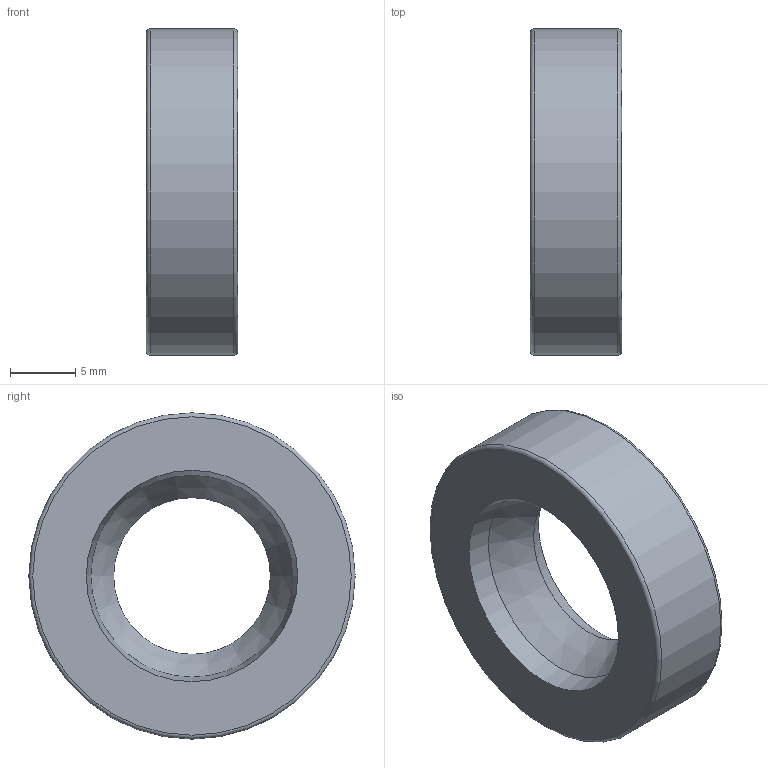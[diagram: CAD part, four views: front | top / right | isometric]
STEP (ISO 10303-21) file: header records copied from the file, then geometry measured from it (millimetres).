
FILE_DESCRIPTION(/* description */ ('오일-실'),/* implementation_level */ '2;1');
FILE_NAME(/* name */ '',/* time_stamp */ '2026-03-04T10:07:14+09:00',/* author */ ('jhkim'),/* organization */ (''),/* preprocessor_version */ 'ST-DEVELOPER v20.1',/* originating_system */ 'Autodesk Inventor 2026',/* authorisation */ '');
FILE_SCHEMA (('AUTOMOTIVE_DESIGN { 1 0 10303 214 3 1 1 }'));
Length unit declared in the file: millimetre
Products named in the file (1): 오일 실 12 25 7
Bounding box: 7 x 25 x 25 mm (x, y, z)
Volume: 1358.5 mm3; surface area: 2088.9 mm2
Topology: 1 solids, 1 shells, 15 faces, 31 edges, 20 vertices
Faces by surface type: torus 4, plane 4, cone 4, cylinder 3
Full cylindrical faces by diameter (mm): 16.2 x1, 22.5 x1, 25 x1
Entity records: 460 total; most frequent: DIRECTION 87, CARTESIAN_POINT 67, ORIENTED_EDGE 62, AXIS2_PLACEMENT_3D 40, EDGE_CURVE 31, CIRCLE 24, VERTEX_POINT 20, EDGE_LOOP 19
